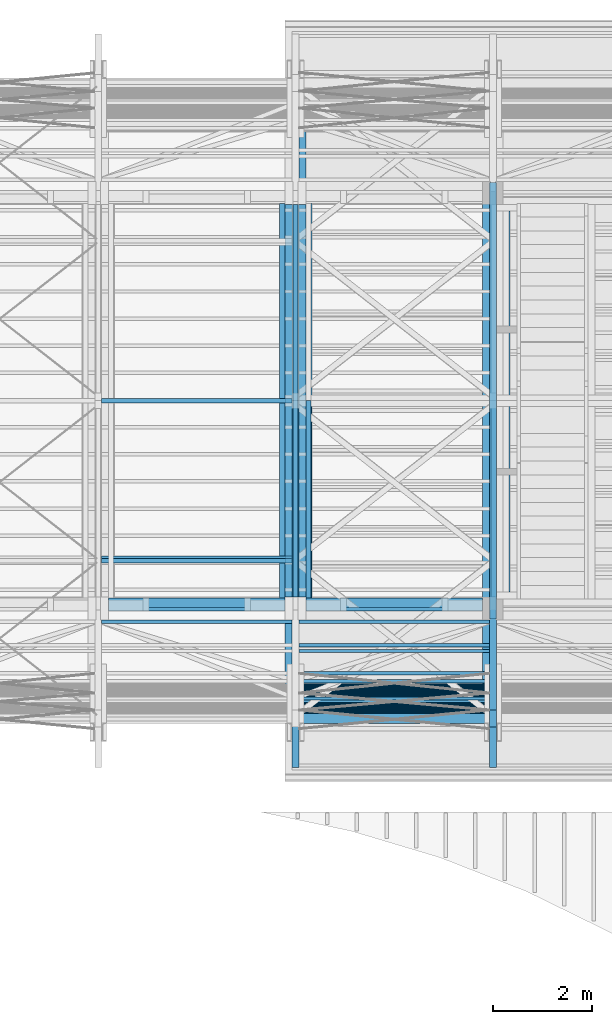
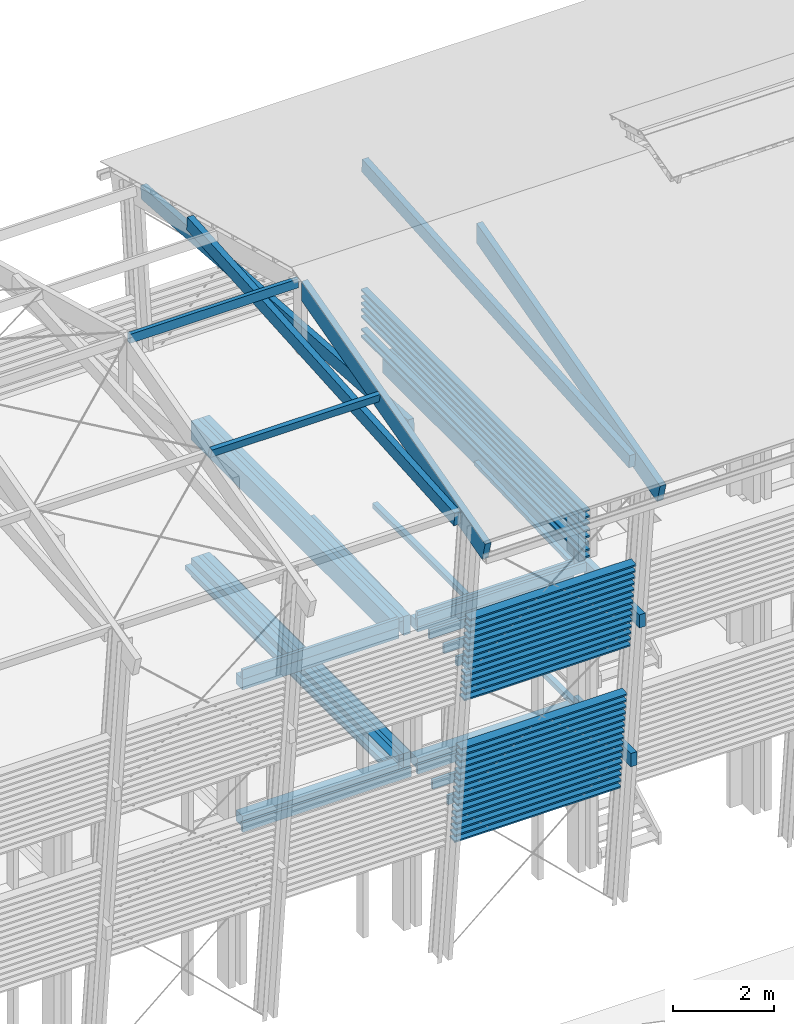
# One storey, part 8 of 48: 73 beams.
"""IFC2X3 building model written with IfcOpenShell, lengths in metres."""

from ifc_helpers import new_model, si_unit, direction, frame, origin_with_axes, place, context, subcontext, project, spatial, faceted_brep, material, element, save


model = new_model("IFC2X3")

# Units and contexts
model_context = context("Model", 3, precision=1e-06, world=origin_with_axes(), true_north=direction((0.0, 1.0, 0.0)))
body_context = subcontext(model_context, "Body", "Model", "MODEL_VIEW")
ifc_project = project(units=[si_unit("LENGTHUNIT", "METRE"), si_unit("AREAUNIT", "SQUARE_METRE"), si_unit("VOLUMEUNIT", "CUBIC_METRE"), si_unit("PLANEANGLEUNIT", "RADIAN")], contexts=[model_context])

# Site, building, storey
site_placement = place(None, origin_with_axes())
site = spatial("IfcSite", under=ifc_project, at=site_placement, CompositionType="ELEMENT")
building_placement = place(site_placement, origin_with_axes())
building = spatial("IfcBuilding", under=site, at=building_placement, Name="Building 1", CompositionType="ELEMENT")
storey_placement = place(building_placement, origin_with_axes())
storey = spatial("IfcBuildingStorey", under=building, at=storey_placement, Name="Storey 1", CompositionType="ELEMENT", Elevation=0.0)

# Beams
ifc_material_1 = material(Name="Moabi")
beam_1_placement = place(storey_placement, frame((41.3927439, -195.0773447, 3.5773858), z_axis=(0.0, 0.9945219, 0.1045285), x_axis=(-1.0, 0.0, 0.0)))
element("IfcBeam", 1, at=beam_1_placement, inside=storey, material=ifc_material_1, Name="garde corp", context=body_context, shape_type="Brep", body=[
    faceted_brep([(3.8047071, 0.02, -0.1), (3.8047071, -0.02, -0.1), (0.0, -0.02, -0.1), (0.0, 0.02, -0.1), (3.8047071, -0.02, 0.1), (0.0, -0.02, 0.1), (3.8047071, 0.02, 0.1), (0.0, 0.02, 0.1)], [[[0, 1, 2, 3]], [[1, 4, 5, 2]], [[4, 6, 7, 5]], [[6, 0, 3, 7]], [[1, 0, 6, 4]], [[7, 3, 2, 5]]]),
])
beam_2_placement = place(storey_placement, frame((41.3927439, -195.2780394, 5.4868678), z_axis=(0.0, 0.9945219, 0.1045285), x_axis=(-1.0, 0.0, 0.0)))
element("IfcBeam", 2, at=beam_2_placement, inside=storey, material=ifc_material_1, Name="garde corp", context=body_context, shape_type="Brep", body=[
    faceted_brep([(3.8047069, 0.02, -0.1), (3.8047069, -0.02, -0.1), (0.0, -0.02, -0.1), (0.0, 0.02, -0.1), (3.8047069, -0.02, 0.1), (0.0, -0.02, 0.1), (3.8047071, 0.02, 0.1), (0.0, 0.02, 0.1)], [[[0, 1, 2, 3]], [[1, 4, 5, 2]], [[4, 6, 7, 5]], [[6, 0, 3, 7]], [[1, 0, 6, 4]], [[7, 3, 2, 5]]]),
])
beam_3_placement = place(storey_placement, frame((41.3927441, -195.5790813, 8.3510909), z_axis=(0.0, 0.9945219, 0.1045285), x_axis=(-1.0, 0.0, 0.0)))
element("IfcBeam", 3, at=beam_3_placement, inside=storey, material=ifc_material_1, Name="garde corp", context=body_context, shape_type="Brep", body=[
    faceted_brep([(3.806, 0.02, -0.1), (3.806, -0.02, -0.1), (0.0, -0.02, -0.1), (0.0, 0.02, -0.1), (3.806, -0.02, 0.1), (0.0, -0.02, 0.1), (3.806, 0.02, 0.1), (0.0, 0.02, 0.1)], [[[0, 1, 2, 3]], [[1, 4, 5, 2]], [[4, 6, 7, 5]], [[6, 0, 3, 7]], [[1, 0, 6, 4]], [[7, 3, 2, 5]]]),
])
ifc_material_2 = material(Name="GL28h")
beam_4_placement = place(storey_placement, frame((37.5597437, -194.2816702, 4.139), z_axis=(0.0, 0.0, 1.0), x_axis=(1.0, 0.0, 0.0)))
element("IfcBeam", 4, at=beam_4_placement, inside=storey, material=ifc_material_2, Name="Solive", context=body_context, shape_type="Brep", body=[
    faceted_brep([(3.86, 0.035, 0.11), (3.86, 0.035, -0.11), (0.0, 0.035, -0.11), (0.0, 0.035, 0.11), (3.86, -0.035, -0.11), (0.0, -0.035, -0.11), (3.86, -0.035, 0.11), (0.0, -0.035, 0.11)], [[[0, 1, 2, 3]], [[1, 4, 5, 2]], [[4, 6, 7, 5]], [[6, 0, 3, 7]], [[1, 0, 6, 4]], [[7, 3, 2, 5]]]),
])
beam_5_placement = place(storey_placement, frame((41.3927441, -195.5958059, 8.5102144), z_axis=(0.0, 0.9945219, 0.1045285), x_axis=(-1.0, 0.0, 0.0)))
element("IfcBeam", 5, at=beam_5_placement, inside=storey, material=ifc_material_1, Name="garde corp", context=body_context, shape_type="Brep", body=[
    faceted_brep([(3.806, 0.02, -0.1), (3.806, -0.02, -0.1), (0.0, -0.02, -0.1), (0.0, 0.02, -0.1), (3.806, -0.02, 0.1), (0.0, -0.02, 0.1), (3.806, 0.02, 0.1), (0.0, 0.02, 0.1)], [[[0, 1, 2, 3]], [[1, 4, 5, 2]], [[4, 6, 7, 5]], [[6, 0, 3, 7]], [[1, 0, 6, 4]], [[7, 3, 2, 5]]]),
])
beam_6_placement = place(storey_placement, frame((41.3927439, -195.0940693, 3.7365093), z_axis=(0.0, 0.9945219, 0.1045285), x_axis=(-1.0, 0.0, 0.0)))
element("IfcBeam", 6, at=beam_6_placement, inside=storey, material=ifc_material_1, Name="garde corp", context=body_context, shape_type="Brep", body=[
    faceted_brep([(3.8047069, 0.02, -0.1), (3.8047071, -0.02, -0.1), (0.0, -0.02, -0.1), (0.0, 0.02, -0.1), (3.8047071, -0.02, 0.1), (0.0, -0.02, 0.1), (3.8047071, 0.02, 0.1), (0.0, 0.02, 0.1)], [[[0, 1, 2, 3]], [[1, 4, 5, 2]], [[4, 6, 7, 5]], [[6, 0, 3, 7]], [[1, 0, 6, 4]], [[7, 3, 2, 5]]]),
])
beam_7_placement = place(storey_placement, frame((37.5597437, -194.7346515, 7.699), z_axis=(0.0, 0.0, 1.0), x_axis=(1.0, 0.0, 0.0)))
element("IfcBeam", 7, at=beam_7_placement, inside=storey, material=ifc_material_2, Name="Solive", context=body_context, shape_type="Brep", body=[
    faceted_brep([(3.86, 0.035, 0.11), (3.86, 0.035, -0.11), (0.0, 0.035, -0.11), (0.0, 0.035, 0.11), (3.86, -0.035, -0.11), (0.0, -0.035, -0.11), (3.86, -0.035, 0.11), (0.0, -0.035, 0.11)], [[[0, 1, 2, 3]], [[1, 4, 5, 2]], [[4, 6, 7, 5]], [[6, 0, 3, 7]], [[1, 0, 6, 4]], [[7, 3, 2, 5]]]),
])
beam_8_placement = place(storey_placement, frame((41.4997437, -185.2064881, 4.015), z_axis=(0.0, 0.0, 1.0), x_axis=(0.0, -1.0, 0.0)))
element("IfcBeam", 8, at=beam_8_placement, inside=storey, material=ifc_material_2, Name="Sous-glace", context=body_context, shape_type="Brep", body=[
    faceted_brep([(0.0, -0.06, -0.06), (0.0, 0.06, -0.06), (8.0031634, 0.06, -0.06), (8.0031634, -0.06, -0.06), (0.0, 0.06, 0.06), (8.0031634, 0.06, 0.06), (0.0, -0.06, 0.06), (8.0031634, -0.06, 0.06)], [[[0, 1, 2, 3]], [[1, 4, 5, 2]], [[4, 6, 7, 5]], [[6, 0, 3, 7]], [[0, 6, 4, 1]], [[5, 7, 3, 2]]]),
])
beam_9_placement = place(storey_placement, frame((41.3927441, -195.4452849, 7.0781028), z_axis=(0.0, 0.9945219, 0.1045285), x_axis=(-1.0, 0.0, 0.0)))
element("IfcBeam", 9, at=beam_9_placement, inside=storey, material=ifc_material_1, Name="garde corp", context=body_context, shape_type="Brep", body=[
    faceted_brep([(3.806, 0.02, -0.1), (3.806, -0.02, -0.1), (0.0, -0.02, -0.1), (0.0, 0.02, -0.1), (3.806, -0.02, 0.1), (0.0, -0.02, 0.1), (3.806, 0.02, 0.1), (0.0, 0.02, 0.1)], [[[0, 1, 2, 3]], [[1, 4, 5, 2]], [[4, 6, 7, 5]], [[6, 0, 3, 7]], [[1, 0, 6, 4]], [[7, 3, 2, 5]]]),
])
beam_10_placement = place(storey_placement, frame((41.7097437, -185.3664877, 7.53), z_axis=(0.0, 0.0, 1.0), x_axis=(0.0, -1.0, 0.0)))
element("IfcBeam", 10, at=beam_10_placement, inside=storey, material=ifc_material_2, Name="Buton", context=body_context, shape_type="Brep", body=[
    faceted_brep([(7.7231634, 0.13, -0.26), (7.7231634, 0.13, 0.26), (7.7231634, -0.13, 0.26), (7.7231634, -0.13, -0.26), (0.0, 0.13, 0.26), (0.0, 0.13, -0.26), (0.0, -0.13, -0.26), (0.0, -0.13, 0.26)], [[[0, 1, 2, 3]], [[4, 5, 6, 7]], [[3, 6, 5, 0]], [[2, 7, 6, 3]], [[1, 4, 7, 2]], [[0, 5, 4, 1]]]),
])
for number, where, z_axis, x_axis, name in (
    (11, (41.4897441, -184.7864885, 8.982), (1.0, 0.0, 0.0), (0.0, -1.0, 0.0), "garde corp"),
    (12, (41.4897441, -184.7864885, 7.862), (1.0, 0.0, 0.0), (0.0, -1.0, 0.0), "garde corp"),
    (13, (41.4897441, -184.7864885, 8.342), (1.0, 0.0, 0.0), (0.0, -1.0, 0.0), "garde corp"),
    (14, (41.4897441, -184.7864885, 8.502), (1.0, 0.0, 0.0), (0.0, -1.0, 0.0), "garde corp"),
):
    element("IfcBeam", number, at=place(storey_placement, frame(where, z_axis=z_axis, x_axis=x_axis)), inside=storey, material=ifc_material_1, Name=name, context=body_context, shape_type="Brep", body=[
        faceted_brep([(8.843163, -0.02, 0.07), (8.843163, 0.02, 0.07), (0.0, 0.02, 0.07), (0.0, -0.02, 0.07), (8.843163, 0.02, -0.07), (0.0, 0.02, -0.07), (8.843163, -0.02, -0.07), (0.0, -0.02, -0.07)], [[[0, 1, 2, 3]], [[1, 4, 5, 2]], [[4, 6, 7, 5]], [[6, 0, 3, 7]], [[1, 0, 6, 4]], [[7, 3, 2, 5]]]),
    ])
beam_11_placement = place(storey_placement, frame((41.4897441, -184.7865535, 8.662), z_axis=(1.0, 0.0, 0.0), x_axis=(0.0, -1.0, 0.0)))
element("IfcBeam", 15, at=beam_11_placement, inside=storey, material=ifc_material_1, Name="garde corp", context=body_context, shape_type="Brep", body=[
    faceted_brep([(8.8430979, -0.02, 0.07), (8.8430979, 0.02, 0.07), (0.0, 0.02, 0.07), (0.0, -0.02, 0.07), (8.8430979, 0.02, -0.07), (0.0, 0.02, -0.07), (8.8430979, -0.02, -0.07), (0.0, -0.02, -0.07)], [[[0, 1, 2, 3]], [[1, 4, 5, 2]], [[4, 6, 7, 5]], [[6, 0, 3, 7]], [[1, 0, 6, 4]], [[7, 3, 2, 5]]]),
])
beam_12_placement = place(storey_placement, frame((41.4897441, -184.7864885, 8.822), z_axis=(1.0, 0.0, 0.0), x_axis=(0.0, -1.0, 0.0)))
element("IfcBeam", 16, at=beam_12_placement, inside=storey, material=ifc_material_1, Name="garde corp", context=body_context, shape_type="Brep", body=[
    faceted_brep([(8.843163, -0.02, 0.07), (8.843163, 0.02, 0.07), (0.0, 0.02, 0.07), (0.0, -0.02, 0.07), (8.843163, 0.02, -0.07), (0.0, 0.02, -0.07), (8.843163, -0.02, -0.07), (0.0, -0.02, -0.07)], [[[0, 1, 2, 3]], [[1, 4, 5, 2]], [[4, 6, 7, 5]], [[6, 0, 3, 7]], [[1, 0, 6, 4]], [[7, 3, 2, 5]]]),
])
beam_13_placement = place(storey_placement, frame((41.3927439, -195.2613148, 5.3277443), z_axis=(0.0, 0.9945219, 0.1045285), x_axis=(-1.0, 0.0, 0.0)))
element("IfcBeam", 17, at=beam_13_placement, inside=storey, material=ifc_material_1, Name="garde corp", context=body_context, shape_type="Brep", body=[
    faceted_brep([(3.8048055, 0.02, -0.1), (3.8048055, -0.02, -0.1), (0.0, -0.02, -0.1), (0.0, 0.02, -0.1), (3.8048055, -0.02, 0.1), (0.0, -0.02, 0.1), (3.8048055, 0.02, 0.1), (0.0, 0.02, 0.1)], [[[0, 1, 2, 3]], [[1, 4, 5, 2]], [[4, 6, 7, 5]], [[6, 0, 3, 7]], [[1, 0, 6, 4]], [[7, 3, 2, 5]]]),
])
beam_14_placement = place(storey_placement, frame((37.4897437, -185.2264881, 4.165), z_axis=(0.0, 0.0, 1.0), x_axis=(0.0, -1.0, 0.0)))
element("IfcBeam", 18, at=beam_14_placement, inside=storey, material=ifc_material_2, Name="Sommier", context=body_context, shape_type="Brep", body=[
    faceted_brep([(0.0, -0.05, -0.05), (0.0, -0.05, 0.05), (0.0, 0.05, 0.05), (0.0, 0.05, -0.05), (7.9631634, -0.05, 0.05), (7.9631634, 0.05, 0.05), (7.9631634, -0.05, -0.05), (7.9631634, 0.05, -0.05)], [[[0, 1, 2, 3]], [[2, 1, 4, 5]], [[1, 0, 6, 4]], [[5, 4, 6, 7]], [[3, 2, 5, 7]], [[0, 3, 7, 6]]]),
])
beam_15_placement = place(storey_placement, frame((41.4897441, -184.7864885, 8.022), z_axis=(1.0, 0.0, 0.0), x_axis=(0.0, -1.0, 0.0)))
element("IfcBeam", 19, at=beam_15_placement, inside=storey, material=ifc_material_1, Name="garde corp", context=body_context, shape_type="Brep", body=[
    faceted_brep([(8.843163, -0.02, 0.07), (8.843163, 0.02, 0.07), (0.0, 0.02, 0.07), (0.0, -0.02, 0.07), (8.843163, 0.02, -0.07), (0.0, 0.02, -0.07), (8.843163, -0.02, -0.07), (0.0, -0.02, -0.07)], [[[0, 1, 2, 3]], [[1, 4, 5, 2]], [[4, 6, 7, 5]], [[6, 0, 3, 7]], [[1, 0, 6, 4]], [[7, 3, 2, 5]]]),
])
for number, where, z_axis, x_axis, name in (
    (20, (41.3927441, -195.4954586, 7.5554733), (0.0, 0.9945219, 0.1045285), (-1.0, 0.0, 0.0), "garde corp"),
    (21, (41.3927441, -195.5121831, 7.7145968), (0.0, 0.9945219, 0.1045285), (-1.0, 0.0, 0.0), "garde corp"),
    (22, (41.3927441, -195.4620095, 7.2372263), (0.0, 0.9945219, 0.1045285), (-1.0, 0.0, 0.0), "garde corp"),
    (23, (41.3927441, -195.5289077, 7.8737203), (0.0, 0.9945219, 0.1045285), (-1.0, 0.0, 0.0), "garde corp"),
    (24, (41.3927441, -195.4285604, 6.9189793), (0.0, 0.9945219, 0.1045285), (-1.0, 0.0, 0.0), "garde corp"),
    (25, (41.3927441, -195.5623568, 8.1919674), (0.0, 0.9945219, 0.1045285), (-1.0, 0.0, 0.0), "garde corp"),
    (26, (41.3927437, -195.6459796, 8.9875849), (0.0, 0.9945219, 0.1045285), (-1.0, 0.0, 0.0), "garde corp"),
):
    element("IfcBeam", number, at=place(storey_placement, frame(where, z_axis=z_axis, x_axis=x_axis)), inside=storey, material=ifc_material_1, Name=name, context=body_context, shape_type="Brep", body=[
        faceted_brep([(3.806, 0.02, -0.1), (3.806, -0.02, -0.1), (0.0, -0.02, -0.1), (0.0, 0.02, -0.1), (3.806, -0.02, 0.1), (0.0, -0.02, 0.1), (3.806, 0.02, 0.1), (0.0, 0.02, 0.1)], [[[0, 1, 2, 3]], [[1, 4, 5, 2]], [[4, 6, 7, 5]], [[6, 0, 3, 7]], [[1, 0, 6, 4]], [[7, 3, 2, 5]]]),
    ])
for number, where, z_axis, x_axis, name in (
    (27, (41.3927439, -195.177692, 4.5321268), (0.0, 0.9945219, 0.1045285), (-1.0, 0.0, 0.0), "garde corp"),
    (28, (41.3927439, -195.2278657, 5.0094973), (0.0, 0.9945219, 0.1045285), (-1.0, 0.0, 0.0), "garde corp"),
):
    element("IfcBeam", number, at=place(storey_placement, frame(where, z_axis=z_axis, x_axis=x_axis)), inside=storey, material=ifc_material_1, Name=name, context=body_context, shape_type="Brep", body=[
        faceted_brep([(3.8047069, 0.02, -0.1), (3.8047071, -0.02, -0.1), (0.0, -0.02, -0.1), (0.0, 0.02, -0.1), (3.8047069, -0.02, 0.1), (0.0, -0.02, 0.1), (3.8047071, 0.02, 0.1), (0.0, 0.02, 0.1)], [[[0, 1, 2, 3]], [[1, 4, 5, 2]], [[4, 6, 7, 5]], [[6, 0, 3, 7]], [[1, 0, 6, 4]], [[7, 3, 2, 5]]]),
    ])
beam_16_placement = place(storey_placement, frame((41.3927437, -195.5456322, 8.0328439), z_axis=(0.0, 0.9945219, 0.1045285), x_axis=(-1.0, 0.0, 0.0)))
element("IfcBeam", 29, at=beam_16_placement, inside=storey, material=ifc_material_1, Name="garde corp", context=body_context, shape_type="Brep", body=[
    faceted_brep([(3.806, 0.02, -0.1), (3.806, -0.02, -0.1), (0.0, -0.02, -0.1), (0.0, 0.02, -0.1), (3.806, -0.02, 0.1), (0.0, -0.02, 0.1), (3.806, 0.02, 0.1), (0.0, 0.02, 0.1)], [[[0, 1, 2, 3]], [[1, 4, 5, 2]], [[4, 6, 7, 5]], [[6, 0, 3, 7]], [[1, 0, 6, 4]], [[7, 3, 2, 5]]]),
])
beam_17_placement = place(storey_placement, frame((41.3927439, -195.1442429, 4.2138798), z_axis=(0.0, 0.9945219, 0.1045285), x_axis=(-1.0, 0.0, 0.0)))
element("IfcBeam", 30, at=beam_17_placement, inside=storey, material=ifc_material_1, Name="garde corp", context=body_context, shape_type="Brep", body=[
    faceted_brep([(3.8048051, 0.02, -0.1), (3.8048051, -0.02, -0.1), (0.0, -0.02, -0.1), (0.0, 0.02, -0.1), (3.8048051, -0.02, 0.1), (0.0, -0.02, 0.1), (3.8048051, 0.02, 0.1), (0.0, 0.02, 0.1)], [[[0, 1, 2, 3]], [[1, 4, 5, 2]], [[4, 6, 7, 5]], [[6, 0, 3, 7]], [[1, 0, 6, 4]], [[7, 3, 2, 5]]]),
])
beam_18_placement = place(storey_placement, frame((41.3927439, -195.2111412, 4.8503738), z_axis=(0.0, 0.9945219, 0.1045285), x_axis=(-1.0, 0.0, 0.0)))
element("IfcBeam", 31, at=beam_18_placement, inside=storey, material=ifc_material_1, Name="garde corp", context=body_context, shape_type="Brep", body=[
    faceted_brep([(3.8048055, 0.02, -0.1), (3.8048055, -0.02, -0.1), (0.0, -0.02, -0.1), (0.0, 0.02, -0.1), (3.8048055, -0.02, 0.1), (0.0, -0.02, 0.1), (3.8048055, 0.02, 0.1), (0.0, 0.02, 0.1)], [[[0, 1, 2, 3]], [[1, 4, 5, 2]], [[4, 6, 7, 5]], [[6, 0, 3, 7]], [[1, 0, 6, 4]], [[7, 3, 2, 5]]]),
])
beam_19_placement = place(storey_placement, frame((41.4897437, -193.1896515, 4.089), z_axis=(0.0, 0.0, 1.0), x_axis=(0.0, -1.0, 0.0)))
element("IfcBeam", 32, at=beam_19_placement, inside=storey, material=ifc_material_2, Name="Sommier Coursive", context=body_context, shape_type="Brep", body=[
    faceted_brep([(0.0, 0.05, 0.16), (0.44, 0.05, 0.16), (0.44, 0.05, -0.16), (0.0, 0.05, -0.16), (0.44, 0.07, 0.16), (0.44, 0.07, -0.16), (0.0, -0.05, 0.16), (0.44, -0.05, 0.16), (0.44, -0.07, 0.16), (2.2900003, -0.07, 0.16), (2.2900003, 0.07, 0.16), (0.0, -0.05, -0.16), (0.44, -0.05, -0.16), (0.44, -0.07, -0.16), (2.2900003, 0.07, -0.16), (2.2900003, -0.07, -0.16)], [[[0, 1, 2, 3]], [[1, 4, 5, 2]], [[4, 1, 0, 6, 7, 8, 9, 10]], [[0, 3, 11, 6]], [[11, 12, 7, 6]], [[12, 13, 8, 7]], [[2, 5, 14, 15, 13, 12, 11, 3]], [[8, 13, 15, 9]], [[5, 4, 10, 14]], [[10, 9, 15, 14]]]),
])
beam_20_placement = place(storey_placement, frame((41.3927439, -195.1609675, 4.3730033), z_axis=(0.0, 0.9945219, 0.1045285), x_axis=(-1.0, 0.0, 0.0)))
element("IfcBeam", 33, at=beam_20_placement, inside=storey, material=ifc_material_1, Name="garde corp", context=body_context, shape_type="Brep", body=[
    faceted_brep([(3.8048051, 0.02, -0.1), (3.8048051, -0.02, -0.1), (0.0, -0.02, -0.1), (0.0, 0.02, -0.1), (3.8048051, -0.02, 0.1), (0.0, -0.02, 0.1), (3.8048051, 0.02, 0.1), (0.0, 0.02, 0.1)], [[[0, 1, 2, 3]], [[1, 4, 5, 2]], [[4, 6, 7, 5]], [[6, 0, 3, 7]], [[1, 0, 6, 4]], [[7, 3, 2, 5]]]),
])
beam_21_placement = place(storey_placement, frame((41.3927439, -195.0606202, 3.4182623), z_axis=(0.0, 0.9945219, 0.1045285), x_axis=(-1.0, 0.0, 0.0)))
element("IfcBeam", 34, at=beam_21_placement, inside=storey, material=ifc_material_1, Name="garde corp", context=body_context, shape_type="Brep", body=[
    faceted_brep([(3.8047069, 0.02, -0.1), (3.8047069, -0.02, -0.1), (0.0, -0.02, -0.1), (0.0, 0.02, -0.1), (3.8047069, -0.02, 0.1), (0.0, -0.02, 0.1), (3.8047071, 0.02, 0.1), (0.0, 0.02, 0.1)], [[[0, 1, 2, 3]], [[1, 4, 5, 2]], [[4, 6, 7, 5]], [[6, 0, 3, 7]], [[1, 0, 6, 4]], [[7, 3, 2, 5]]]),
])
beam_22_placement = place(storey_placement, frame((41.3927439, -195.2947639, 5.6459913), z_axis=(0.0, 0.9945219, 0.1045285), x_axis=(-1.0, 0.0, 0.0)))
element("IfcBeam", 35, at=beam_22_placement, inside=storey, material=ifc_material_1, Name="garde corp", context=body_context, shape_type="Brep", body=[
    faceted_brep([(3.8048055, 0.02, -0.1), (3.8048055, -0.02, -0.1), (0.0, -0.02, -0.1), (0.0, 0.02, -0.1), (3.8048055, -0.02, 0.1), (0.0, -0.02, 0.1), (3.8048055, 0.02, 0.1), (0.0, 0.02, 0.1)], [[[0, 1, 2, 3]], [[1, 4, 5, 2]], [[4, 6, 7, 5]], [[6, 0, 3, 7]], [[1, 0, 6, 4]], [[7, 3, 2, 5]]]),
])
beam_23_placement = place(storey_placement, frame((41.3927439, -195.0438956, 3.2591388), z_axis=(0.0, 0.9945219, 0.1045285), x_axis=(-1.0, 0.0, 0.0)))
element("IfcBeam", 36, at=beam_23_placement, inside=storey, material=ifc_material_1, Name="garde corp", context=body_context, shape_type="Brep", body=[
    faceted_brep([(3.8048051, 0.02, -0.1), (3.8048051, -0.02, -0.1), (0.0, -0.02, -0.1), (0.0, 0.02, -0.1), (3.8048051, -0.02, 0.1), (0.0, -0.02, 0.1), (3.8048051, 0.02, 0.1), (0.0, 0.02, 0.1)], [[[0, 1, 2, 3]], [[1, 4, 5, 2]], [[4, 6, 7, 5]], [[6, 0, 3, 7]], [[1, 0, 6, 4]], [[7, 3, 2, 5]]]),
])
beam_24_placement = place(storey_placement, frame((41.3927441, -195.629255, 8.8284614), z_axis=(0.0, 0.9945219, 0.1045285), x_axis=(-1.0, 0.0, 0.0)))
element("IfcBeam", 37, at=beam_24_placement, inside=storey, material=ifc_material_1, Name="garde corp", context=body_context, shape_type="Brep", body=[
    faceted_brep([(3.806, 0.02, -0.1), (3.806, -0.02, -0.1), (0.0, -0.02, -0.1), (0.0, 0.02, -0.1), (3.806, -0.02, 0.1), (0.0, -0.02, 0.1), (3.806, 0.02, 0.1), (0.0, 0.02, 0.1)], [[[0, 1, 2, 3]], [[1, 4, 5, 2]], [[4, 6, 7, 5]], [[6, 0, 3, 7]], [[1, 0, 6, 4]], [[7, 3, 2, 5]]]),
])
beam_25_placement = place(storey_placement, frame((41.3927439, -195.2445903, 5.1686208), z_axis=(0.0, 0.9945219, 0.1045285), x_axis=(-1.0, 0.0, 0.0)))
element("IfcBeam", 38, at=beam_25_placement, inside=storey, material=ifc_material_1, Name="garde corp", context=body_context, shape_type="Brep", body=[
    faceted_brep([(3.8048055, 0.02, -0.1), (3.8048055, -0.02, -0.1), (0.0, -0.02, -0.1), (0.0, 0.02, -0.1), (3.8048055, -0.02, 0.1), (0.0, -0.02, 0.1), (3.8048055, 0.02, 0.1), (0.0, 0.02, 0.1)], [[[0, 1, 2, 3]], [[1, 4, 5, 2]], [[4, 6, 7, 5]], [[6, 0, 3, 7]], [[1, 0, 6, 4]], [[7, 3, 2, 5]]]),
])
beam_26_placement = place(storey_placement, frame((41.3927439, -195.1944166, 4.6912503), z_axis=(0.0, 0.9945219, 0.1045285), x_axis=(-1.0, 0.0, 0.0)))
element("IfcBeam", 39, at=beam_26_placement, inside=storey, material=ifc_material_1, Name="garde corp", context=body_context, shape_type="Brep", body=[
    faceted_brep([(3.8047069, 0.02, -0.1), (3.8047071, -0.02, -0.1), (0.0, -0.02, -0.1), (0.0, 0.02, -0.1), (3.8047071, -0.02, 0.1), (0.0, -0.02, 0.1), (3.8047071, 0.02, 0.1), (0.0, 0.02, 0.1)], [[[0, 1, 2, 3]], [[1, 4, 5, 2]], [[4, 6, 7, 5]], [[6, 0, 3, 7]], [[1, 0, 6, 4]], [[7, 3, 2, 5]]]),
])
beam_27_placement = place(storey_placement, frame((41.3927439, -195.1275184, 4.0547563), z_axis=(0.0, 0.9945219, 0.1045285), x_axis=(-1.0, 0.0, 0.0)))
element("IfcBeam", 40, at=beam_27_placement, inside=storey, material=ifc_material_1, Name="garde corp", context=body_context, shape_type="Brep", body=[
    faceted_brep([(3.8048051, 0.02, -0.1), (3.8048051, -0.02, -0.1), (0.0, -0.02, -0.1), (0.0, 0.02, -0.1), (3.8048051, -0.02, 0.1), (0.0, -0.02, 0.1), (3.8048051, 0.02, 0.1), (0.0, 0.02, 0.1)], [[[0, 1, 2, 3]], [[1, 4, 5, 2]], [[4, 6, 7, 5]], [[6, 0, 3, 7]], [[1, 0, 6, 4]], [[7, 3, 2, 5]]]),
])
beam_28_placement = place(storey_placement, frame((41.3927439, -195.1107938, 3.8956328), z_axis=(0.0, 0.9945219, 0.1045285), x_axis=(-1.0, 0.0, 0.0)))
element("IfcBeam", 41, at=beam_28_placement, inside=storey, material=ifc_material_1, Name="garde corp", context=body_context, shape_type="Brep", body=[
    faceted_brep([(3.8047069, 0.02, -0.1), (3.8047071, -0.02, -0.1), (0.0, -0.02, -0.1), (0.0, 0.02, -0.1), (3.8047071, -0.02, 0.1), (0.0, -0.02, 0.1), (3.8047071, 0.02, 0.1), (0.0, 0.02, 0.1)], [[[0, 1, 2, 3]], [[1, 4, 5, 2]], [[4, 6, 7, 5]], [[6, 0, 3, 7]], [[1, 0, 6, 4]], [[7, 3, 2, 5]]]),
])
for number, where, z_axis, x_axis, name in (
    (42, (41.3927437, -195.6125305, 8.6693379), (0.0, 0.9945219, 0.1045285), (-1.0, 0.0, 0.0), "garde corp"),
    (43, (41.3927441, -195.478734, 7.3963498), (0.0, 0.9945219, 0.1045285), (-1.0, 0.0, 0.0), "garde corp"),
):
    element("IfcBeam", number, at=place(storey_placement, frame(where, z_axis=z_axis, x_axis=x_axis)), inside=storey, material=ifc_material_1, Name=name, context=body_context, shape_type="Brep", body=[
        faceted_brep([(3.806, 0.02, -0.1), (3.806, -0.02, -0.1), (0.0, -0.02, -0.1), (0.0, 0.02, -0.1), (3.806, -0.02, 0.1), (0.0, -0.02, 0.1), (3.806, 0.02, 0.1), (0.0, 0.02, 0.1)], [[[0, 1, 2, 3]], [[1, 4, 5, 2]], [[4, 6, 7, 5]], [[6, 0, 3, 7]], [[1, 0, 6, 4]], [[7, 3, 2, 5]]]),
    ])
beam_29_placement = place(storey_placement, frame((33.6997437, -193.4346515, 7.64), z_axis=(0.0, 0.0, 1.0), x_axis=(1.0, 0.0, 0.0)))
element("IfcBeam", 44, at=beam_29_placement, inside=storey, material=ifc_material_2, Name="Rive", context=body_context, shape_type="Brep", body=[
    faceted_brep([(0.0, -0.035, -0.11), (0.0, -0.035, 0.11), (0.0, 0.035, 0.11), (0.0, 0.035, -0.11), (3.58, 0.035, -0.11), (3.58, -0.035, -0.11), (3.58, -0.035, 0.11), (3.58, 0.035, 0.11)], [[[0, 1, 2, 3]], [[0, 3, 4, 5]], [[1, 0, 5, 6]], [[5, 4, 7, 6]], [[3, 2, 7, 4]], [[2, 1, 6, 7]]]),
])
beam_30_placement = place(storey_placement, frame((37.4897437, -196.5806087, 11.197686), z_axis=(0.0, -0.258819, 0.9659258), x_axis=(0.0, 0.9659258, 0.258819)))
element("IfcBeam", 45, at=beam_30_placement, inside=storey, material=ifc_material_2, Name="Arbalétrier", context=body_context, shape_type="Brep", body=[
    faceted_brep([(7.4053414, 0.07, -0.23), (7.5285981, 0.07, 0.23), (7.5285981, -0.07, 0.23), (7.4053414, -0.07, -0.23), (0.0, 0.07, 0.23), (0.0, -0.07, 0.23), (0.0, 0.07, -0.23), (0.0, -0.07, -0.23)], [[[0, 1, 2, 3]], [[2, 1, 4, 5]], [[1, 0, 6, 4]], [[0, 3, 7, 6]], [[3, 2, 5, 7]], [[6, 7, 5, 4]]]),
])
beam_31_placement = place(storey_placement, frame((37.7597437, -185.2064881, 4.015), z_axis=(0.0, 0.0, 1.0), x_axis=(0.0, -1.0, 0.0)))
element("IfcBeam", 46, at=beam_31_placement, inside=storey, material=ifc_material_2, Name="Sous-glace", context=body_context, shape_type="Brep", body=[
    faceted_brep([(0.0, -0.06, -0.06), (0.0, 0.06, -0.06), (8.0031634, 0.06, -0.06), (8.0031634, -0.06, -0.06), (0.0, 0.06, 0.06), (8.0031634, 0.06, 0.06), (0.0, -0.06, 0.06), (8.0031634, -0.06, 0.06)], [[[0, 1, 2, 3]], [[1, 4, 5, 2]], [[4, 6, 7, 5]], [[6, 0, 3, 7]], [[0, 6, 4, 1]], [[5, 7, 3, 2]]]),
])
beam_32_placement = place(storey_placement, frame((37.5597437, -195.2446515, 7.699), z_axis=(0.0, 0.0, 1.0), x_axis=(1.0, 0.0, 0.0)))
element("IfcBeam", 47, at=beam_32_placement, inside=storey, material=ifc_material_2, Name="Solive", context=body_context, shape_type="Brep", body=[
    faceted_brep([(0.0, -0.035, -0.11), (0.0, -0.035, 0.11), (0.0, 0.035, 0.11), (0.0, 0.035, -0.11), (3.8599996, -0.035, 0.11), (3.8599996, 0.035, 0.11), (3.8599996, -0.035, -0.11), (3.8599996, 0.035, -0.11)], [[[0, 1, 2, 3]], [[2, 1, 4, 5]], [[1, 0, 6, 4]], [[0, 3, 7, 6]], [[3, 2, 5, 7]], [[7, 5, 4, 6]]]),
])
beam_33_placement = place(storey_placement, frame((37.2197437, -185.2064881, 4.015), z_axis=(0.0, 0.0, 1.0), x_axis=(0.0, -1.0, 0.0)))
element("IfcBeam", 48, at=beam_33_placement, inside=storey, material=ifc_material_2, Name="Sous-glace", context=body_context, shape_type="Brep", body=[
    faceted_brep([(0.0, -0.06, -0.06), (0.0, 0.06, -0.06), (8.0031634, 0.06, -0.06), (8.0031634, -0.06, -0.06), (0.0, 0.06, 0.06), (8.0031634, 0.06, 0.06), (0.0, -0.06, 0.06), (8.0031634, -0.06, 0.06)], [[[0, 1, 2, 3]], [[1, 4, 5, 2]], [[4, 6, 7, 5]], [[6, 0, 3, 7]], [[0, 6, 4, 1]], [[5, 7, 3, 2]]]),
])
beam_34_placement = place(storey_placement, frame((37.3597437, -185.2264881, 7.3), z_axis=(0.0, 0.0, 1.0), x_axis=(0.0, -1.0, 0.0)))
element("IfcBeam", 49, at=beam_34_placement, inside=storey, material=ifc_material_2, Name="Sommier", context=body_context, shape_type="Brep", body=[
    faceted_brep([(7.9631634, 0.08, 0.23), (7.9631634, 0.08, -0.23), (0.0, 0.08, -0.23), (0.0, 0.08, 0.23), (0.0, -0.08, -0.23), (0.0, -0.08, 0.23), (7.9631634, -0.08, -0.23), (7.9631634, -0.08, 0.23)], [[[0, 1, 2, 3]], [[2, 4, 5, 3]], [[6, 7, 5, 4]], [[1, 6, 4, 2]], [[7, 6, 1, 0]], [[7, 0, 3, 5]]]),
])
for number, where, z_axis, x_axis in (
    (50, (37.5597437, -193.6846515, 7.699), (0.0, 0.0, 1.0), (1.0, 0.0, 0.0)),
    (51, (37.5597437, -194.1646515, 7.699), (0.0, 0.0, 1.0), (1.0, 0.0, 0.0)),
):
    element("IfcBeam", number, at=place(storey_placement, frame(where, z_axis=z_axis, x_axis=x_axis)), inside=storey, material=ifc_material_2, Name="Solive", context=body_context, shape_type="Brep", body=[
        faceted_brep([(3.86, 0.035, 0.11), (3.86, 0.035, -0.11), (0.0, 0.035, -0.11), (0.0, 0.035, 0.11), (3.86, -0.035, -0.11), (0.0, -0.035, -0.11), (3.86, -0.035, 0.11), (0.0, -0.035, 0.11)], [[[0, 1, 2, 3]], [[1, 4, 5, 2]], [[4, 6, 7, 5]], [[6, 0, 3, 7]], [[1, 0, 6, 4]], [[7, 3, 2, 5]]]),
    ])
beam_35_placement = place(storey_placement, frame((41.4897437, -196.5806087, 11.197686), z_axis=(0.0, -0.258819, 0.9659258), x_axis=(0.0, 0.9659258, 0.258819)))
element("IfcBeam", 52, at=beam_35_placement, inside=storey, material=ifc_material_2, Name="Arbalétrier", context=body_context, shape_type="Brep", body=[
    faceted_brep([(7.4053414, 0.07, -0.23), (7.5285981, 0.07, 0.23), (7.5285981, -0.07, 0.23), (7.4053414, -0.07, -0.23), (0.0, 0.07, 0.23), (0.0, -0.07, 0.23), (0.0, 0.07, -0.23), (0.0, -0.07, -0.23)], [[[0, 1, 2, 3]], [[2, 1, 4, 5]], [[1, 0, 6, 4]], [[0, 3, 7, 6]], [[3, 2, 5, 7]], [[6, 7, 5, 4]]]),
])
for number, where, z_axis, x_axis, name in (
    (53, (41.5097437, -189.2065705, 7.4500014), (0.0, -0.0299865, 0.9995503), (0.0, -0.9995503, -0.0299865), "Sous-glace"),
    (54, (37.7497437, -189.2065705, 7.4500014), (0.0, -0.0299865, 0.9995503), (0.0, -0.9995503, -0.0299865), "Sous-glace"),
):
    element("IfcBeam", number, at=place(storey_placement, frame(where, z_axis=z_axis, x_axis=x_axis)), inside=storey, material=ifc_material_2, Name=name, context=body_context, shape_type="Brep", body=[
        faceted_brep([(0.0, -0.05, 0.05), (0.003, -0.05, -0.05), (4.006382, -0.05, -0.05), (4.003382, -0.05, 0.05), (4.003382, 0.05, 0.05), (0.0, 0.05, 0.05), (0.003, 0.05, -0.05), (4.006382, 0.05, -0.05)], [[[0, 1, 2, 3]], [[3, 4, 5, 0]], [[6, 5, 4, 7]], [[1, 6, 7, 2]], [[1, 0, 5, 6]], [[2, 7, 4, 3]]]),
    ])
beam_36_placement = place(storey_placement, frame((37.6997437, -193.4346515, 7.64), z_axis=(0.0, 0.0, 1.0), x_axis=(1.0, 0.0, 0.0)))
element("IfcBeam", 55, at=beam_36_placement, inside=storey, material=ifc_material_2, Name="Rive", context=body_context, shape_type="Brep", body=[
    faceted_brep([(0.0, -0.035, -0.11), (0.0, -0.035, 0.11), (0.0, 0.035, 0.11), (0.0, 0.035, -0.11), (3.58, 0.035, -0.11), (3.58, -0.035, -0.11), (3.58, -0.035, 0.11), (3.58, 0.035, 0.11)], [[[0, 1, 2, 3]], [[0, 3, 4, 5]], [[1, 0, 5, 6]], [[5, 4, 7, 6]], [[3, 2, 7, 4]], [[2, 1, 6, 7]]]),
])
beam_37_placement = place(storey_placement, frame((37.4897437, -185.2264881, 7.48), z_axis=(0.0, 0.0, 1.0), x_axis=(0.0, -1.0, 0.0)))
element("IfcBeam", 56, at=beam_37_placement, inside=storey, material=ifc_material_2, Name="Sommier", context=body_context, shape_type="Brep", body=[
    faceted_brep([(0.0, -0.05, -0.05), (0.0, -0.05, 0.05), (0.0, 0.05, 0.05), (0.0, 0.05, -0.05), (7.9631634, -0.05, 0.05), (7.9631634, 0.05, 0.05), (7.9631634, -0.05, -0.05), (7.9631634, 0.05, -0.05)], [[[0, 1, 2, 3]], [[2, 1, 4, 5]], [[1, 0, 6, 4]], [[5, 4, 6, 7]], [[3, 2, 5, 7]], [[0, 3, 7, 6]]]),
])
beam_38_placement = place(storey_placement, frame((37.6197437, -185.2264881, 7.3), z_axis=(0.0, 0.0, 1.0), x_axis=(0.0, -1.0, 0.0)))
element("IfcBeam", 57, at=beam_38_placement, inside=storey, material=ifc_material_2, Name="Sommier", context=body_context, shape_type="Brep", body=[
    faceted_brep([(7.9631634, 0.08, 0.23), (7.9631634, 0.08, -0.23), (0.0, 0.08, -0.23), (0.0, 0.08, 0.23), (0.0, -0.08, -0.23), (0.0, -0.08, 0.23), (7.9631634, -0.08, -0.23), (7.9631634, -0.08, 0.23)], [[[0, 1, 2, 3]], [[2, 4, 5, 3]], [[6, 7, 5, 4]], [[1, 6, 4, 2]], [[7, 6, 1, 0]], [[7, 0, 3, 5]]]),
])
beam_39_placement = place(storey_placement, frame((33.5597433, -192.4247592, 12.4354756), z_axis=(0.0, -0.258819, 0.9659258), x_axis=(1.0, 0.0, 0.0)))
element("IfcBeam", 58, at=beam_39_placement, inside=storey, material=ifc_material_2, Name="Buton", context=body_context, shape_type="Brep", body=[
    faceted_brep([(3.8600004, -0.045, 0.11), (3.8600004, 0.045, 0.11), (0.0, 0.045, 0.11), (0.0, -0.045, 0.11), (3.8600004, 0.045, -0.11), (0.0, 0.045, -0.11), (3.8600004, -0.045, -0.11), (0.0, -0.045, -0.11)], [[[0, 1, 2, 3]], [[1, 4, 5, 2]], [[4, 6, 7, 5]], [[6, 0, 3, 7]], [[1, 0, 6, 4]], [[7, 3, 2, 5]]]),
])
for number, where, z_axis, x_axis in (
    (59, (37.5597437, -194.898689, 4.139), (0.0, 0.0, 1.0), (1.0, 0.0, 0.0)),
    (60, (37.5597437, -193.6846515, 4.139), (0.0, 0.0, 1.0), (1.0, 0.0, 0.0)),
):
    element("IfcBeam", number, at=place(storey_placement, frame(where, z_axis=z_axis, x_axis=x_axis)), inside=storey, material=ifc_material_2, Name="Solive", context=body_context, shape_type="Brep", body=[
        faceted_brep([(3.86, 0.035, 0.11), (3.86, 0.035, -0.11), (0.0, 0.035, -0.11), (0.0, 0.035, 0.11), (3.86, -0.035, -0.11), (0.0, -0.035, -0.11), (3.86, -0.035, 0.11), (0.0, -0.035, 0.11)], [[[0, 1, 2, 3]], [[1, 4, 5, 2]], [[4, 6, 7, 5]], [[6, 0, 3, 7]], [[1, 0, 6, 4]], [[7, 3, 2, 5]]]),
    ])
beam_40_placement = place(storey_placement, frame((33.5597433, -189.2080698, 13.2512653), z_axis=(0.0, 0.0, 1.0), x_axis=(1.0, 0.0, 0.0)))
element("IfcBeam", 61, at=beam_40_placement, inside=storey, material=ifc_material_2, Name="Buton", context=body_context, shape_type="Brep", body=[
    faceted_brep([(3.8600004, -0.045, 0.11), (3.8600004, 0.045, 0.11), (0.0, 0.045, 0.11), (0.0, -0.045, 0.11), (3.8600004, 0.045, -0.11), (0.0, 0.045, -0.11), (3.8600004, -0.045, -0.11), (0.0, -0.045, -0.11)], [[[0, 1, 2, 3]], [[1, 4, 5, 2]], [[4, 6, 7, 5]], [[6, 0, 3, 7]], [[1, 0, 6, 4]], [[7, 3, 2, 5]]]),
])
beam_41_placement = place(storey_placement, frame((41.4897437, -193.1896515, 7.649), z_axis=(0.0, 0.0, 1.0), x_axis=(0.0, -1.0, 0.0)))
element("IfcBeam", 62, at=beam_41_placement, inside=storey, material=ifc_material_2, Name="Sommier Coursive", context=body_context, shape_type="Brep", body=[
    faceted_brep([(0.0, -0.05, -0.16), (0.44, -0.05, -0.16), (0.44, -0.05, 0.16), (0.0, -0.05, 0.16), (0.44, -0.07, -0.16), (0.44, -0.07, 0.16), (0.0, 0.05, 0.16), (0.0, 0.05, -0.16), (2.6285375, -0.07, 0.16), (2.6285375, 0.07, 0.16), (0.44, 0.07, 0.16), (0.44, 0.05, 0.16), (0.44, 0.05, -0.16), (0.44, 0.07, -0.16), (2.6285375, -0.07, -0.16), (2.6285375, 0.07, -0.16)], [[[0, 1, 2, 3]], [[1, 4, 5, 2]], [[0, 3, 6, 7]], [[3, 2, 5, 8, 9, 10, 11, 6]], [[6, 11, 12, 7]], [[11, 10, 13, 12]], [[5, 4, 14, 8]], [[1, 0, 7, 12, 13, 15, 14, 4]], [[13, 10, 9, 15]], [[9, 8, 14, 15]]]),
])
beam_42_placement = place(storey_placement, frame((33.5597437, -193.6846515, 4.139), z_axis=(0.0, 0.0, 1.0), x_axis=(1.0, 0.0, 0.0)))
element("IfcBeam", 63, at=beam_42_placement, inside=storey, material=ifc_material_2, Name="Solive", context=body_context, shape_type="Brep", body=[
    faceted_brep([(3.86, 0.035, 0.11), (3.86, 0.035, -0.11), (0.0, 0.035, -0.11), (0.0, 0.035, 0.11), (3.86, -0.035, -0.11), (0.0, -0.035, -0.11), (3.86, -0.035, 0.11), (0.0, -0.035, 0.11)], [[[0, 1, 2, 3]], [[1, 4, 5, 2]], [[4, 6, 7, 5]], [[6, 0, 3, 7]], [[1, 0, 6, 4]], [[7, 3, 2, 5]]]),
])
for number, where, z_axis, x_axis in (
    (64, (41.3497437, -195.6652037, 11.4619485), (0.0, -0.070184, 0.9975341), (0.0, 0.9975341, 0.070184)),
    (65, (37.6297437, -182.7509358, 11.4619485), (0.0, 0.070184, 0.9975341), (0.0, -0.9975341, 0.070184)),
):
    element("IfcBeam", number, at=place(storey_placement, frame(where, z_axis=z_axis, x_axis=x_axis)), inside=storey, material=ifc_material_2, Name="Entrait", context=body_context, shape_type="Brep", body=[
        faceted_brep([(0.0, 0.07, 0.16), (0.0110373, 0.07, -0.16), (0.0110373, -0.07, -0.16), (0.0, -0.07, 0.16), (10.6243711, 0.07, -0.16), (10.6243711, -0.07, -0.16), (10.6243711, 0.07, 0.16), (10.6243711, -0.07, 0.16)], [[[0, 1, 2, 3]], [[2, 1, 4, 5]], [[1, 0, 6, 4]], [[5, 4, 6, 7]], [[3, 2, 5, 7]], [[0, 3, 7, 6]]]),
    ])
for number, where, z_axis, x_axis in (
    (66, (37.3597437, -185.2264881, 3.985), (0.0, 0.0, 1.0), (0.0, -1.0, 0.0)),
    (67, (37.6197437, -185.2264881, 3.985), (0.0, 0.0, 1.0), (0.0, -1.0, 0.0)),
):
    element("IfcBeam", number, at=place(storey_placement, frame(where, z_axis=z_axis, x_axis=x_axis)), inside=storey, material=ifc_material_2, Name="Sommier", context=body_context, shape_type="Brep", body=[
        faceted_brep([(7.9631634, 0.08, 0.23), (7.9631634, 0.08, -0.23), (0.0, 0.08, -0.23), (0.0, 0.08, 0.23), (0.0, -0.08, -0.23), (0.0, -0.08, 0.23), (7.9631634, -0.08, -0.23), (7.9631634, -0.08, 0.23)], [[[0, 1, 2, 3]], [[2, 4, 5, 3]], [[6, 7, 5, 4]], [[1, 6, 4, 2]], [[7, 6, 1, 0]], [[7, 0, 3, 5]]]),
    ])
beam_43_placement = place(storey_placement, frame((37.3497437, -195.6652037, 11.4619485), z_axis=(0.0, -0.070184, 0.9975341), x_axis=(0.0, 0.9975341, 0.070184)))
element("IfcBeam", 68, at=beam_43_placement, inside=storey, material=ifc_material_2, Name="Entrait", context=body_context, shape_type="Brep", body=[
    faceted_brep([(0.0, 0.07, 0.16), (0.0110373, 0.07, -0.16), (0.0110373, -0.07, -0.16), (0.0, -0.07, 0.16), (10.6243711, 0.07, -0.16), (10.6243711, -0.07, -0.16), (10.6243711, 0.07, 0.16), (10.6243711, -0.07, 0.16)], [[[0, 1, 2, 3]], [[2, 1, 4, 5]], [[1, 0, 6, 4]], [[5, 4, 6, 7]], [[3, 2, 5, 7]], [[0, 3, 7, 6]]]),
])
beam_44_placement = place(storey_placement, frame((37.4897437, -185.2264881, 3.805), z_axis=(0.0, 0.0, 1.0), x_axis=(0.0, -1.0, 0.0)))
element("IfcBeam", 69, at=beam_44_placement, inside=storey, material=ifc_material_2, Name="Sommier", context=body_context, shape_type="Brep", body=[
    faceted_brep([(0.0, -0.05, -0.05), (0.0, -0.05, 0.05), (0.0, 0.05, 0.05), (0.0, 0.05, -0.05), (7.9631634, -0.05, 0.05), (7.9631634, 0.05, 0.05), (7.9631634, -0.05, -0.05), (7.9631634, 0.05, -0.05)], [[[0, 1, 2, 3]], [[2, 1, 4, 5]], [[1, 0, 6, 4]], [[5, 4, 6, 7]], [[3, 2, 5, 7]], [[0, 3, 7, 6]]]),
])
for number, where, z_axis, x_axis in (
    (70, (37.6997437, -193.3396515, 4.085), (0.0, 0.0, 1.0), (1.0, 0.0, 0.0)),
    (71, (37.6997437, -193.3396515, 7.4), (0.0, 0.0, 1.0), (1.0, 0.0, 0.0)),
    (72, (33.6997437, -193.3396515, 7.4), (0.0, 0.0, 1.0), (1.0, 0.0, 0.0)),
    (73, (33.6997437, -193.3396515, 4.085), (0.0, 0.0, 1.0), (1.0, 0.0, 0.0)),
):
    element("IfcBeam", number, at=place(storey_placement, frame(where, z_axis=z_axis, x_axis=x_axis)), inside=storey, material=ifc_material_2, Name="Buton", context=body_context, shape_type="Brep", body=[
        faceted_brep([(0.0, 0.13, 0.13), (0.0, -0.13, 0.13), (3.58, -0.13, 0.13), (3.58, 0.13, 0.13), (0.0, -0.13, -0.13), (3.58, -0.13, -0.13), (0.0, 0.13, -0.13), (3.58, 0.13, -0.13)], [[[0, 1, 2, 3]], [[2, 1, 4, 5]], [[1, 0, 6, 4]], [[5, 4, 6, 7]], [[0, 3, 7, 6]], [[3, 2, 5, 7]]]),
    ])

save(model, "model.ifc")
